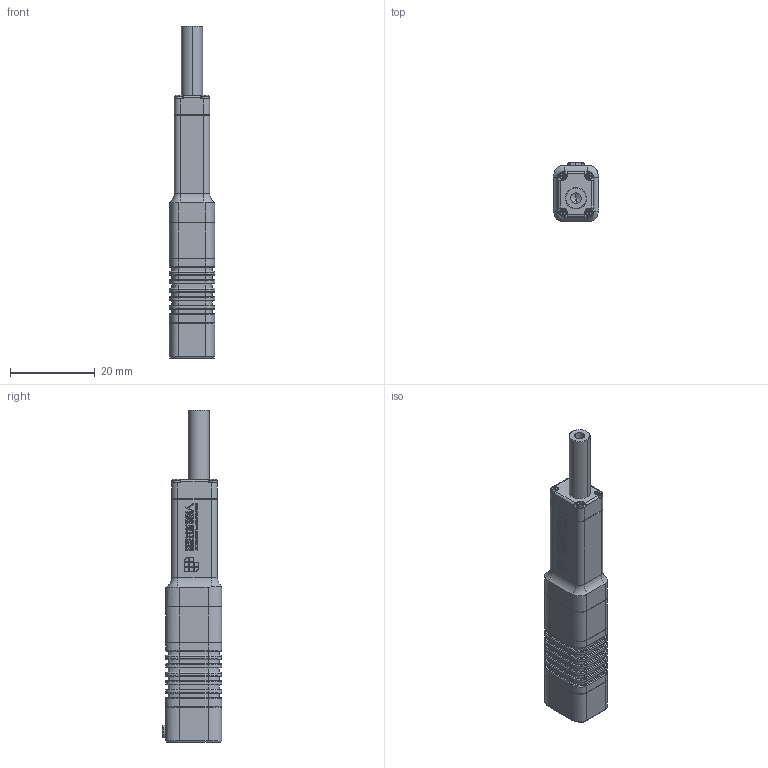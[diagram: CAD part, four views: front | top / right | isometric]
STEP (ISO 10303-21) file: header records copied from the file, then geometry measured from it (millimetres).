
FILE_DESCRIPTION (( 'STEP AP203' ), '1' );
FILE_NAME ('LA16-0x1D-1127.STEP', '2023-11-27T10:44:23', ( '' ), ( '' ), '' );
FILE_SCHEMA (( 'CONFIG_CONTROL_DESIGN' ));
Length unit declared in the file: millimetre
Products named in the file (3): 錨璃1^LA16-0x1D; LA16-0x1D-1127; exA820116-015祥凄詩杶奪
Assembly tree (2 placements, depth 2):
  LA16-0x1D-1127
    exA820116-015祥凄詩杶奪
    錨璃1^LA16-0x1D
Bounding box: 10.8 x 14 x 78.5 mm (x, y, z)
Volume: 7110.4 mm3; surface area: 3799.8 mm2
Topology: 2 solids, 2 shells, 1508 faces, 3938 edges, 2553 vertices
Faces by surface type: plane 814, bspline 556, cylinder 102, torus 20, cone 16
Entity records: 57221 total; most frequent: CARTESIAN_POINT 23640, ORIENTED_EDGE 7872, DIRECTION 4992, EDGE_CURVE 3936, VERTEX_POINT 2553, LINE 2546, VECTOR 2546, EDGE_LOOP 1629
